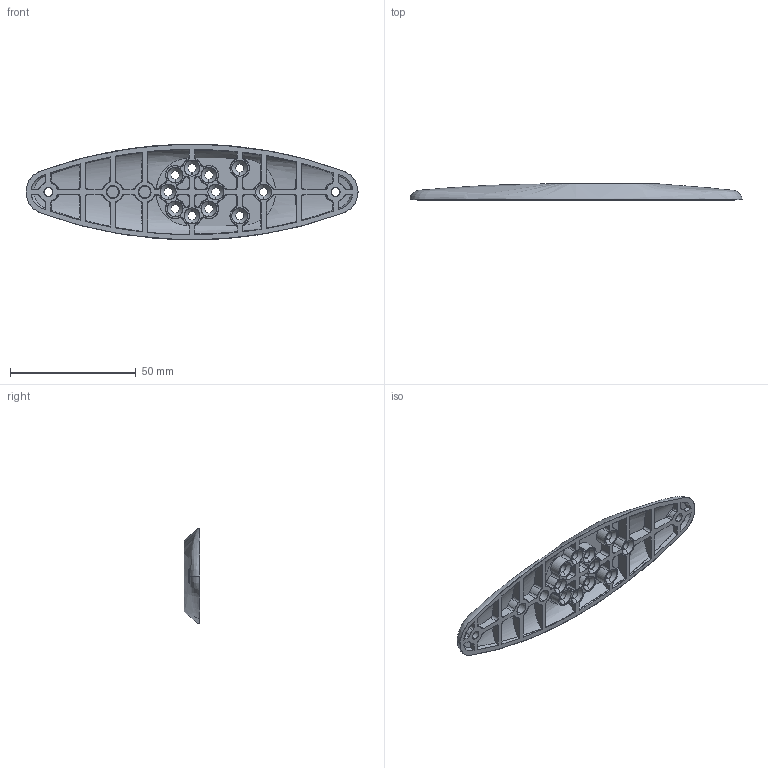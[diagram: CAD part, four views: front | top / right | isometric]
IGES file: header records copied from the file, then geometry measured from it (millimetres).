
Start section: SolidWorks IGES file using NURBS representation for surfaces
Global section: file name: C:\Users\rjehangir\Desktop\T100-Bracket-Public\T100-P-BRACKET-R1.IGS; native system: SolidWorks 2012; preprocessor: SolidWorks 2012; author: rjehangir; date: 140822.090613; units: millimetre
Bounding box: 132.08 x 6.35 x 38.1 mm (x, y, z)
Surface area: 11840.3 mm2 (no closed solid volume)
Topology: 0 solids, 0 shells, 338 faces, 5575 edges, 5575 vertices
Faces by surface type: bspline 338
